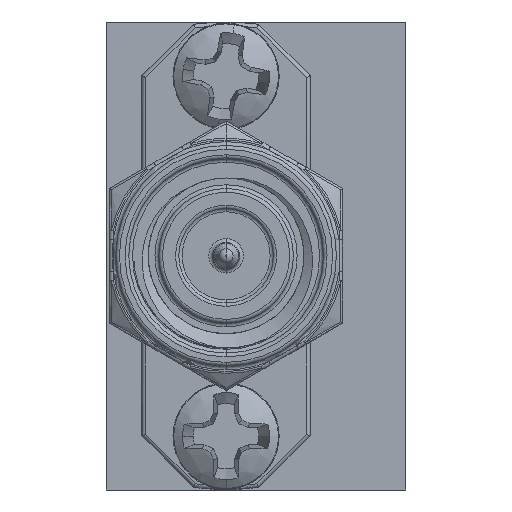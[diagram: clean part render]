
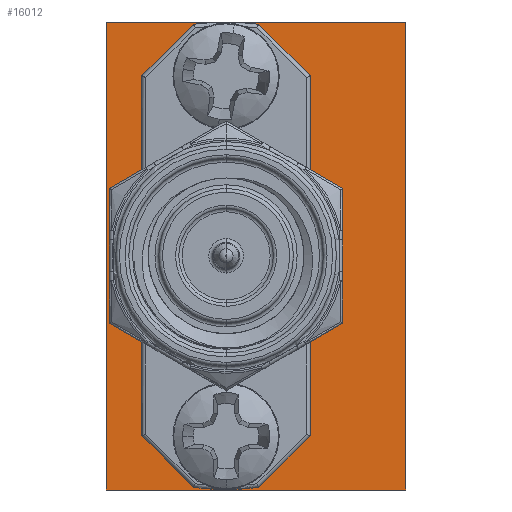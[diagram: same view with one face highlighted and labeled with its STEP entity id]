
A CAD part, left-side view. The second image highlights one B-rep face of the part: STEP entity #16012.
In plain terms, the highlighted planar face has unit normal (-1, 0, 0).
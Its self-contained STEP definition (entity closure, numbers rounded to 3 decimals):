
#758 = ORIENTED_EDGE ( 'NONE', *, *, #11099, .T. ) ;
#2775 = EDGE_CURVE ( 'NONE', #20392, #23994, #14567, .T. ) ;
#3241 = CARTESIAN_POINT ( 'NONE',  ( -21.186, 11.138, 0.599 ) ) ;
#3406 = DIRECTION ( 'NONE',  ( 0., 0., 1. ) ) ;
#4157 = EDGE_CURVE ( 'NONE', #29127, #49563, #14973, .T. ) ;
#4903 = DIRECTION ( 'NONE',  ( 0., 0., 1. ) ) ;
#7401 = DIRECTION ( 'NONE',  ( 0., 0., 1. ) ) ;
#7553 = VERTEX_POINT ( 'NONE', #24361 ) ;
#8222 = CARTESIAN_POINT ( 'NONE',  ( -21.186, 1.486, -13.447 ) ) ;
#8878 = CARTESIAN_POINT ( 'NONE',  ( -21.186, 1.486, -1.23 ) ) ;
#9364 = DIRECTION ( 'NONE',  ( -1., 0., 0. ) ) ;
#10056 = AXIS2_PLACEMENT_3D ( 'NONE', #8878, #9364, #4903 ) ;
#10303 = CARTESIAN_POINT ( 'NONE',  ( -21.186, 11.138, -15.276 ) ) ;
#11099 = EDGE_CURVE ( 'NONE', #19006, #24023, #33105, .T. ) ;
#11115 = CARTESIAN_POINT ( 'NONE',  ( -21.186, 1.486, -1.23 ) ) ;
#11552 = ORIENTED_EDGE ( 'NONE', *, *, #4157, .F. ) ;
#14511 = VERTEX_POINT ( 'NONE', #38926 ) ;
#14567 = CIRCLE ( 'NONE', #29757, 2.248 ) ;
#14723 = DIRECTION ( 'NONE',  ( 0., 0., 1. ) ) ;
#14737 = DIRECTION ( 'NONE',  ( 0., 0., -1. ) ) ;
#14964 = CARTESIAN_POINT ( 'NONE',  ( -21.186, -4.61, 0.599 ) ) ;
#14973 = CIRCLE ( 'NONE', #42963, 1.092 ) ;
#15268 = ORIENTED_EDGE ( 'NONE', *, *, #32574, .F. ) ;
#15414 = ORIENTED_EDGE ( 'NONE', *, *, #47820, .F. ) ;
#15448 = CARTESIAN_POINT ( 'NONE',  ( -21.186, 11.138, 0.599 ) ) ;
#16012 = ADVANCED_FACE ( 'NONE', ( #26000, #26967, #33751, #41761 ), #41269, .F. ) ;
#16370 = ORIENTED_EDGE ( 'NONE', *, *, #2775, .F. ) ;
#17769 = ORIENTED_EDGE ( 'NONE', *, *, #47252, .F. ) ;
#18819 = DIRECTION ( 'NONE',  ( 0., 0., 1. ) ) ;
#19006 = VERTEX_POINT ( 'NONE', #26370 ) ;
#20224 = DIRECTION ( 'NONE',  ( 0., 0., 1. ) ) ;
#20307 = CARTESIAN_POINT ( 'NONE',  ( -21.186, 1.486, -9.587 ) ) ;
#20392 = VERTEX_POINT ( 'NONE', #20307 ) ;
#20789 = CARTESIAN_POINT ( 'NONE',  ( -21.186, -4.61, 0.599 ) ) ;
#20939 = EDGE_CURVE ( 'NONE', #35207, #42169, #30235, .T. ) ;
#21688 = EDGE_CURVE ( 'NONE', #24023, #42169, #45527, .T. ) ;
#22083 = DIRECTION ( 'NONE',  ( -1., 0., 0. ) ) ;
#22390 = DIRECTION ( 'NONE',  ( -1., 0., 0. ) ) ;
#22491 = VECTOR ( 'NONE', #14723, 1000. ) ;
#23994 = VERTEX_POINT ( 'NONE', #38035 ) ;
#24023 = VERTEX_POINT ( 'NONE', #45288 ) ;
#24361 = CARTESIAN_POINT ( 'NONE',  ( -21.186, 1.486, -0.138 ) ) ;
#24703 = DIRECTION ( 'NONE',  ( -1., 0., 0. ) ) ;
#25592 = DIRECTION ( 'NONE',  ( 0., -1., 0. ) ) ;
#26000 = FACE_OUTER_BOUND ( 'NONE', #38445, .T. ) ;
#26370 = CARTESIAN_POINT ( 'NONE',  ( -21.186, 5.55, -15.276 ) ) ;
#26967 = FACE_BOUND ( 'NONE', #34183, .T. ) ;
#29127 = VERTEX_POINT ( 'NONE', #32512 ) ;
#29299 = CARTESIAN_POINT ( 'NONE',  ( -21.186, 1.486, -7.339 ) ) ;
#29757 = AXIS2_PLACEMENT_3D ( 'NONE', #48265, #24703, #40479 ) ;
#29816 = ORIENTED_EDGE ( 'NONE', *, *, #39263, .F. ) ;
#29937 = EDGE_LOOP ( 'NONE', ( #15268, #17769 ) ) ;
#30111 = CARTESIAN_POINT ( 'NONE',  ( -21.186, 1.486, -13.447 ) ) ;
#30235 = LINE ( 'NONE', #15448, #45600 ) ;
#30425 = CARTESIAN_POINT ( 'NONE',  ( -21.186, 5.55, -15.276 ) ) ;
#30803 = AXIS2_PLACEMENT_3D ( 'NONE', #29299, #48828, #34031 ) ;
#32512 = CARTESIAN_POINT ( 'NONE',  ( -21.186, 1.486, -12.355 ) ) ;
#32534 = ORIENTED_EDGE ( 'NONE', *, *, #20939, .F. ) ;
#32574 = EDGE_CURVE ( 'NONE', #7553, #14511, #42072, .T. ) ;
#32689 = EDGE_LOOP ( 'NONE', ( #15414, #16370 ) ) ;
#33105 = LINE ( 'NONE', #10303, #43448 ) ;
#33751 = FACE_BOUND ( 'NONE', #29937, .T. ) ;
#34031 = DIRECTION ( 'NONE',  ( 0., 0., 1. ) ) ;
#34183 = EDGE_LOOP ( 'NONE', ( #11552, #29816 ) ) ;
#35207 = VERTEX_POINT ( 'NONE', #44256 ) ;
#35513 = CIRCLE ( 'NONE', #45137, 1.092 ) ;
#36869 = ORIENTED_EDGE ( 'NONE', *, *, #21688, .T. ) ;
#37772 = DIRECTION ( 'NONE',  ( 0., -1., 0. ) ) ;
#38035 = CARTESIAN_POINT ( 'NONE',  ( -21.186, 1.486, -5.091 ) ) ;
#38445 = EDGE_LOOP ( 'NONE', ( #47537, #758, #36869, #32534 ) ) ;
#38542 = DIRECTION ( 'NONE',  ( -1., 0., 0. ) ) ;
#38926 = CARTESIAN_POINT ( 'NONE',  ( -21.186, 1.486, -2.322 ) ) ;
#39263 = EDGE_CURVE ( 'NONE', #49563, #29127, #42485, .T. ) ;
#40221 = AXIS2_PLACEMENT_3D ( 'NONE', #3241, #49060, #14737 ) ;
#40369 = EDGE_CURVE ( 'NONE', #19006, #35207, #42181, .T. ) ;
#40479 = DIRECTION ( 'NONE',  ( 0., 0., 1. ) ) ;
#41269 = PLANE ( 'NONE',  #40221 ) ;
#41761 = FACE_BOUND ( 'NONE', #32689, .T. ) ;
#42072 = CIRCLE ( 'NONE', #10056, 1.092 ) ;
#42169 = VERTEX_POINT ( 'NONE', #20789 ) ;
#42181 = LINE ( 'NONE', #30425, #47400 ) ;
#42485 = CIRCLE ( 'NONE', #48076, 1.092 ) ;
#42963 = AXIS2_PLACEMENT_3D ( 'NONE', #30111, #22083, #18819 ) ;
#43448 = VECTOR ( 'NONE', #25592, 1000. ) ;
#44256 = CARTESIAN_POINT ( 'NONE',  ( -21.186, 5.55, 0.599 ) ) ;
#45137 = AXIS2_PLACEMENT_3D ( 'NONE', #11115, #22390, #3406 ) ;
#45288 = CARTESIAN_POINT ( 'NONE',  ( -21.186, -4.61, -15.276 ) ) ;
#45527 = LINE ( 'NONE', #14964, #22491 ) ;
#45600 = VECTOR ( 'NONE', #37772, 1000. ) ;
#47252 = EDGE_CURVE ( 'NONE', #14511, #7553, #35513, .T. ) ;
#47400 = VECTOR ( 'NONE', #7401, 1000. ) ;
#47537 = ORIENTED_EDGE ( 'NONE', *, *, #40369, .F. ) ;
#47820 = EDGE_CURVE ( 'NONE', #23994, #20392, #49220, .T. ) ;
#48076 = AXIS2_PLACEMENT_3D ( 'NONE', #8222, #38542, #20224 ) ;
#48114 = CARTESIAN_POINT ( 'NONE',  ( -21.186, 1.486, -14.54 ) ) ;
#48265 = CARTESIAN_POINT ( 'NONE',  ( -21.186, 1.486, -7.339 ) ) ;
#48828 = DIRECTION ( 'NONE',  ( -1., 0., 0. ) ) ;
#49060 = DIRECTION ( 'NONE',  ( 1., 0., 0. ) ) ;
#49220 = CIRCLE ( 'NONE', #30803, 2.248 ) ;
#49563 = VERTEX_POINT ( 'NONE', #48114 ) ;
